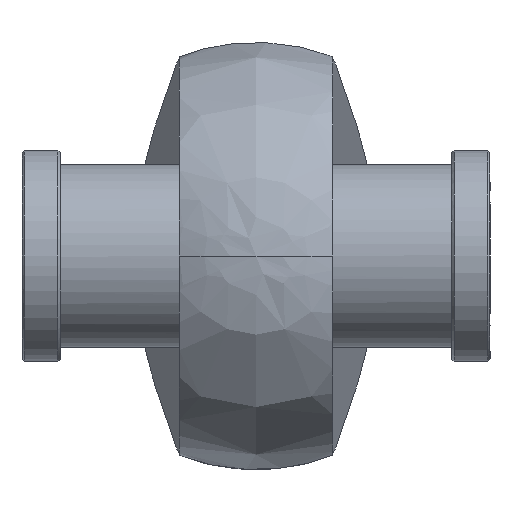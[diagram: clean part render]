
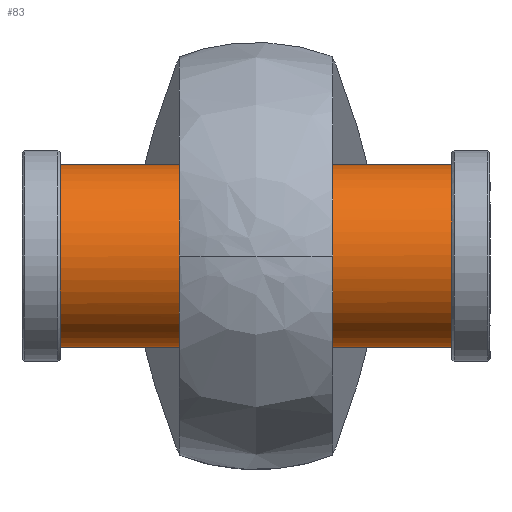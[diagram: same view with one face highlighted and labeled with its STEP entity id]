
A CAD part, left-side view. The second image highlights one B-rep face of the part: STEP entity #83.
In plain terms, the highlighted cylindrical face has radius 19 mm (diameter 38 mm), a full revolution.
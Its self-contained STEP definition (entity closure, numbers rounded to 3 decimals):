
#83=ADVANCED_FACE('',(#157),#1214,.T.);
#157=FACE_OUTER_BOUND('',#238,.T.);
#238=EDGE_LOOP('',(#506,#507,#508,#509));
#506=ORIENTED_EDGE('',*,*,#774,.T.);
#507=ORIENTED_EDGE('',*,*,#776,.T.);
#508=ORIENTED_EDGE('',*,*,#775,.T.);
#509=ORIENTED_EDGE('',*,*,#776,.F.);
#774=EDGE_CURVE('',#1128,#1128,#983,.T.);
#775=EDGE_CURVE('',#1129,#1129,#984,.T.);
#776=EDGE_CURVE('',#1128,#1129,#897,.T.);
#897=B_SPLINE_CURVE_WITH_KNOTS('',1,(#2248,#2249),.UNSPECIFIED.,.F.,.F.,
(2,2),(8.27,89.775),.UNSPECIFIED.);
#983=(
BOUNDED_CURVE()
B_SPLINE_CURVE(2,(#2230,#2231,#2232,#2233,#2234,#2235,#2236,#2237,#2238),
 .UNSPECIFIED.,.T.,.F.)
B_SPLINE_CURVE_WITH_KNOTS((3,2,2,2,3),(0.,29.845,59.69,
89.535,119.381),.UNSPECIFIED.)
CURVE()
GEOMETRIC_REPRESENTATION_ITEM()
RATIONAL_B_SPLINE_CURVE((1.,0.707,1.,0.707,1.,0.707,
1.,0.707,1.))
REPRESENTATION_ITEM('')
);
#984=(
BOUNDED_CURVE()
B_SPLINE_CURVE(2,(#2239,#2240,#2241,#2242,#2243,#2244,#2245,#2246,#2247),
 .UNSPECIFIED.,.T.,.F.)
B_SPLINE_CURVE_WITH_KNOTS((3,2,2,2,3),(0.,29.845,59.69,
89.535,119.381),.UNSPECIFIED.)
CURVE()
GEOMETRIC_REPRESENTATION_ITEM()
RATIONAL_B_SPLINE_CURVE((1.,0.707,1.,0.707,1.,0.707,
1.,0.707,1.))
REPRESENTATION_ITEM('')
);
#1128=VERTEX_POINT('',#2182);
#1129=VERTEX_POINT('',#2183);
#1214=CYLINDRICAL_SURFACE('',#1366,19.);
#1366=AXIS2_PLACEMENT_3D('',#2172,#1412,$);
#1412=DIRECTION('',(0.,-1.,0.));
#2172=CARTESIAN_POINT('',(0.,0.,0.));
#2182=CARTESIAN_POINT('',(19.,40.752,0.));
#2183=CARTESIAN_POINT('',(19.,-40.752,0.));
#2230=CARTESIAN_POINT('',(19.,40.752,0.));
#2231=CARTESIAN_POINT('',(19.,40.752,19.));
#2232=CARTESIAN_POINT('',(0.,40.752,19.));
#2233=CARTESIAN_POINT('',(-19.,40.752,19.));
#2234=CARTESIAN_POINT('',(-19.,40.752,0.));
#2235=CARTESIAN_POINT('',(-19.,40.752,-19.));
#2236=CARTESIAN_POINT('',(0.,40.752,-19.));
#2237=CARTESIAN_POINT('',(19.,40.752,-19.));
#2238=CARTESIAN_POINT('',(19.,40.752,0.));
#2239=CARTESIAN_POINT('',(19.,-40.752,0.));
#2240=CARTESIAN_POINT('',(19.,-40.752,-19.));
#2241=CARTESIAN_POINT('',(0.,-40.752,-19.));
#2242=CARTESIAN_POINT('',(-19.,-40.752,-19.));
#2243=CARTESIAN_POINT('',(-19.,-40.752,0.));
#2244=CARTESIAN_POINT('',(-19.,-40.752,19.));
#2245=CARTESIAN_POINT('',(0.,-40.752,19.));
#2246=CARTESIAN_POINT('',(19.,-40.752,19.));
#2247=CARTESIAN_POINT('',(19.,-40.752,0.));
#2248=CARTESIAN_POINT('',(19.,40.752,0.));
#2249=CARTESIAN_POINT('',(19.,-40.752,0.));
